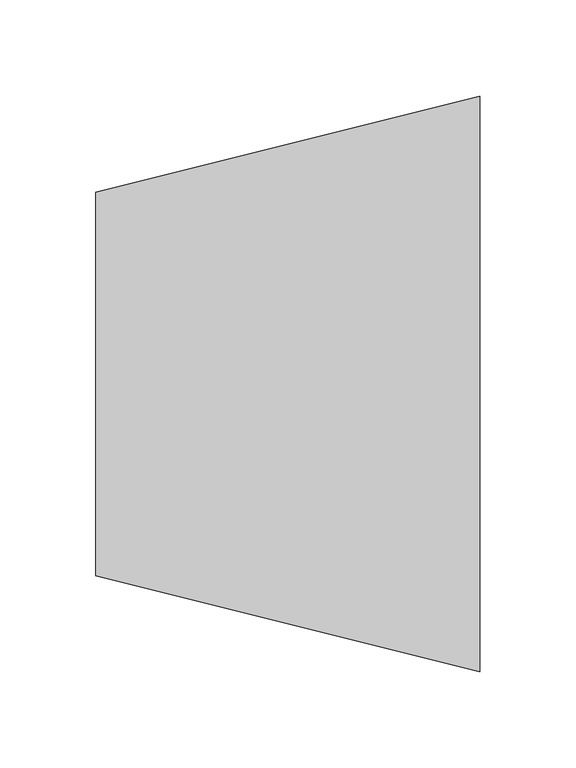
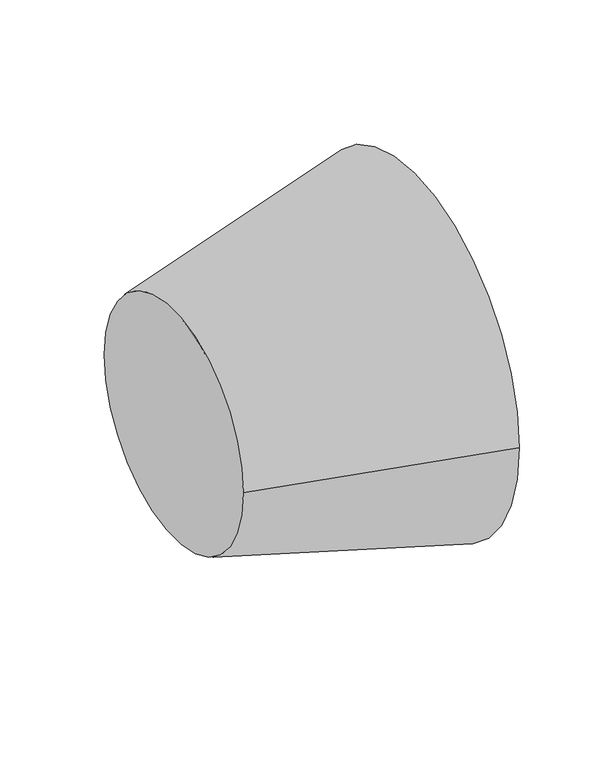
"""IFC4 building model written with IfcOpenShell, lengths in millimetres: duct fitting geometry, BL_ПереходникВоздуховодов_Круглый : Ниппельное соединение."""

from ifc_helpers import new_model, si_unit, frame, origin, place, context, project, spatial, polyline, circle_curve, source, transform, mapped, element, save
from ifc_brep_helpers import plane_surface, revolved_surface, advanced_brep


def duct_fitting_1ddd712a(model_context):
    return source(origin(), model_context, "Body", "AdvancedBrep", [
        advanced_brep(
        [(200.0, -150.0, 0.0), (200.0, 150.0, 0.0), (0.0, -100.0, 0.0), (0.0, 100.0, 0.0)],
        [
            (0, 1, circle_curve(frame((200.0, 0.0, 0.0), z_axis=(1.0, 0.0, 0.0), x_axis=(0.0, -1.0, 0.0)), 150.0)),
            (1, 0, circle_curve(frame((200.0, 0.0, 0.0), z_axis=(1.0, 0.0, 0.0), x_axis=(0.0, 1.0, 0.0)), 150.0)),
            (2, 3, circle_curve(frame((0.0, 0.0, 0.0), z_axis=(-1.0, 0.0, 0.0), x_axis=(0.0, 1.0, 0.0)), 100.0)),
            (3, 2, circle_curve(frame((0.0, 0.0, 0.0), z_axis=(-1.0, 0.0, 0.0), x_axis=(0.0, -1.0, 0.0)), 100.0)),
            (3, 1),
            (0, 2),
        ],
        [
            plane_surface(frame((200.0, 0.0, 0.0), z_axis=(1.0, 0.0, 0.0), x_axis=(0.0, 0.0, -1.0))),
            plane_surface(frame((0.0, 0.0, 0.0), z_axis=(-1.0, 0.0, 0.0), x_axis=(0.0, 0.0, -1.0))),
            revolved_surface(polyline([(0.0, 100.0, 0.0), (200.0, 150.0, 0.0)]), (-400.0, 0.0, 0.0), (1.0, 0.0, 0.0)),
            revolved_surface(polyline([(0.0, -100.0, 0.0), (200.0, -150.0, 0.0)]), (-400.0, 0.0, 0.0), (1.0, 0.0, 0.0)),
        ],
        [
            (0, [[1, 2]]),
            (1, [[3, 4]]),
            (2, [[-4, 5, -1, 6]]),
            (3, [[-3, -6, -2, -5]]),
        ],
    ),
    ])


if __name__ == "__main__":
    model = new_model("IFC4")
    model_context = context("Model", 3, world=origin())
    ifc_project = project(units=[si_unit("LENGTHUNIT", "METRE", prefix="MILLI")], contexts=[model_context])
    site = spatial("IfcSite", under=ifc_project)
    building = spatial("IfcBuilding", under=site)
    placement = place(None, origin())
    duct_fitting_shape = duct_fitting_1ddd712a(model_context)
    element("IfcDuctFitting", 1, ObjectType="BL_ПереходникВоздуховодов_Круглый : Ниппельное соединение", at=placement, inside=building, context=model_context, shape_type="MappedRepresentation", body=[
        mapped(duct_fitting_shape, transform((0.0, 0.0, 0.0), x_axis=(1.0, 0.0, 0.0), y_axis=(0.0, 1.0, 0.0), z_axis=(0.0, 0.0, 1.0))),
    ])
    save(model, "model.ifc")
